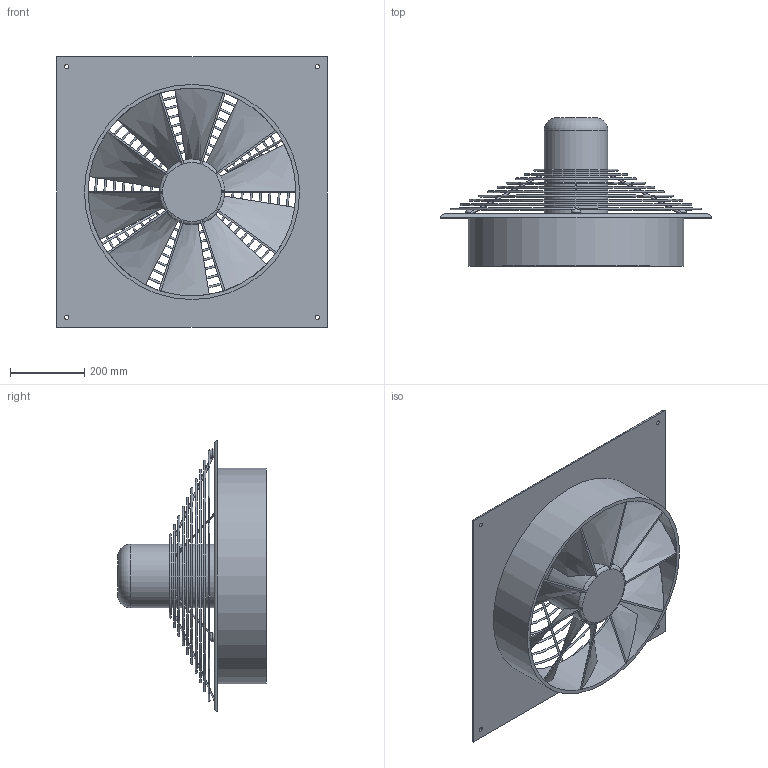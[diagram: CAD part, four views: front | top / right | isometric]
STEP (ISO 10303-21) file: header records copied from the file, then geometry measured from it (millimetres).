
FILE_DESCRIPTION(/* description */ (''),/* implementation_level */ '2;1');
FILE_NAME(/* name */ 'Z:\Output\HQD_560-6_TK-00386-001.stp',/* time_stamp */ '2020-05-11T13:49:58+02:00',/* author */ ('pareshmistry'),/* organization */ (''),/* preprocessor_version */ 'ST-DEVELOPER v17.2',/* originating_system */ 'Autodesk Inventor 2019',/* authorisation */ '');
FILE_SCHEMA (('AUTOMOTIVE_DESIGN { 1 0 10303 214 3 1 1 }'));
Length unit declared in the file: millimetre
Products named in the file (1): HQW EC 450
Bounding box: 730 x 400 x 730 mm (x, y, z)
Volume: 15423153.9 mm3; surface area: 2025947.8 mm2
Topology: 11 solids, 11 shells, 105 faces, 332 edges, 236 vertices
Faces by surface type: bspline 33, plane 28, cylinder 23, torus 21
Full cylindrical faces by diameter (mm): 5 x6, 11 x4, 25 x3, 172 x1, 176 x1, 560 x1, 580 x1
Entity records: 5455 total; most frequent: CARTESIAN_POINT 2459, ORIENTED_EDGE 704, DIRECTION 504, EDGE_CURVE 352, VERTEX_POINT 256, AXIS2_PLACEMENT_3D 207, EDGE_LOOP 126, B_SPLINE_CURVE_WITH_KNOTS 125
